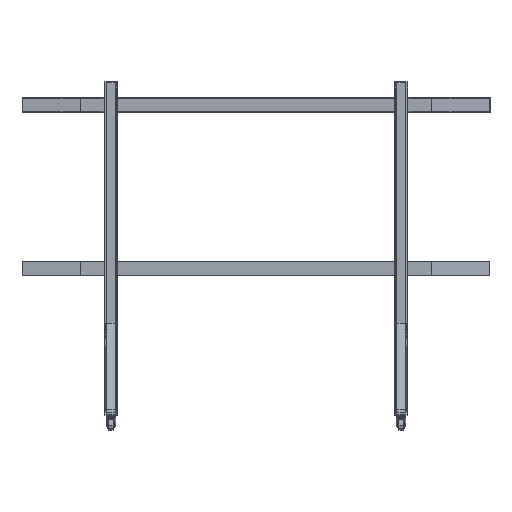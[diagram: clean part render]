
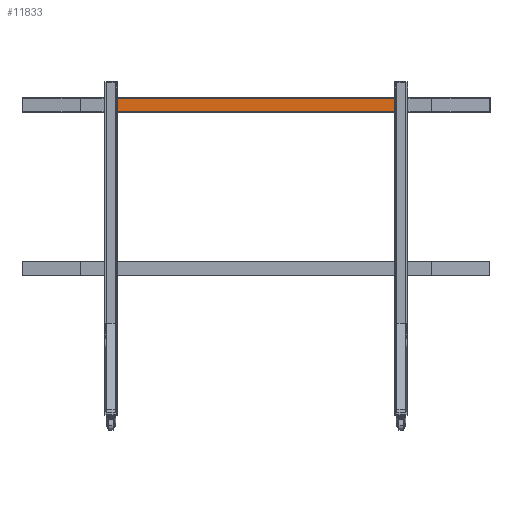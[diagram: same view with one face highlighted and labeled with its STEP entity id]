
A CAD part, top view. The second image highlights one B-rep face of the part: STEP entity #11833.
In plain terms, the highlighted planar face has unit normal (0, 0, 1) as drawn and (0, -1, 0) by its records, which use the part's own axes.
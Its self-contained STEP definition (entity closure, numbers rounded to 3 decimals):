
#886 = AXIS2_PLACEMENT_3D ( 'NONE', #10277, #29179, #7427 ) ;
#1733 = VERTEX_POINT ( 'NONE', #35643 ) ;
#2002 = EDGE_CURVE ( 'NONE', #1733, #33428, #19847, .T. ) ;
#4315 = CARTESIAN_POINT ( 'NONE',  ( -860., -22., -43. ) ) ;
#5908 = CARTESIAN_POINT ( 'NONE',  ( 860., -22., -14.333 ) ) ;
#6430 = CARTESIAN_POINT ( 'NONE',  ( -860., -22., 43. ) ) ;
#7427 = DIRECTION ( 'NONE',  ( 0., 0., -1. ) ) ;
#8514 = CARTESIAN_POINT ( 'NONE',  ( -860., -22., -43. ) ) ;
#8963 = EDGE_LOOP ( 'NONE', ( #16901, #37850, #31430, #17724 ) ) ;
#10277 = CARTESIAN_POINT ( 'NONE',  ( -860., -22., 45. ) ) ;
#10335 = CARTESIAN_POINT ( 'NONE',  ( 860., -22., -43. ) ) ;
#11005 = EDGE_CURVE ( 'NONE', #38182, #1733, #29841, .T. ) ;
#11833 = ADVANCED_FACE ( 'NONE', ( #26734 ), #13369, .T. ) ;
#13026 = CARTESIAN_POINT ( 'NONE',  ( -286.667, -22., -43. ) ) ;
#13369 = PLANE ( 'NONE',  #886 ) ;
#15896 = CARTESIAN_POINT ( 'NONE',  ( 286.667, -22., -43. ) ) ;
#16719 = CARTESIAN_POINT ( 'NONE',  ( -860., -22., -43. ) ) ;
#16901 = ORIENTED_EDGE ( 'NONE', *, *, #25188, .T. ) ;
#17724 = ORIENTED_EDGE ( 'NONE', *, *, #34399, .T. ) ;
#18926 = B_SPLINE_CURVE_WITH_KNOTS ( 'NONE', 3,
 ( #34793, #34582, #37454, #6430 ),
 .UNSPECIFIED., .F., .F.,
 ( 4, 4 ),
 ( 0., 1. ),
 .UNSPECIFIED. ) ;
#19847 = B_SPLINE_CURVE_WITH_KNOTS ( 'NONE', 3,
 ( #10335, #15896, #13026, #16719 ),
 .UNSPECIFIED., .F., .F.,
 ( 4, 4 ),
 ( 0., 1. ),
 .UNSPECIFIED. ) ;
#20335 = CARTESIAN_POINT ( 'NONE',  ( -860., -22., 43. ) ) ;
#24617 = CARTESIAN_POINT ( 'NONE',  ( 860., -22., 14.333 ) ) ;
#25188 = EDGE_CURVE ( 'NONE', #31865, #33428, #40227, .T. ) ;
#26310 = CARTESIAN_POINT ( 'NONE',  ( -860., -22., 14.333 ) ) ;
#26718 = CARTESIAN_POINT ( 'NONE',  ( -860., -22., -14.333 ) ) ;
#26734 = FACE_OUTER_BOUND ( 'NONE', #8963, .T. ) ;
#29097 = CARTESIAN_POINT ( 'NONE',  ( -860., -22., 43. ) ) ;
#29179 = DIRECTION ( 'NONE',  ( 0., -1., 0. ) ) ;
#29841 = B_SPLINE_CURVE_WITH_KNOTS ( 'NONE', 3,
 ( #31163, #24617, #5908, #30566 ),
 .UNSPECIFIED., .F., .F.,
 ( 4, 4 ),
 ( 0., 1. ),
 .UNSPECIFIED. ) ;
#30566 = CARTESIAN_POINT ( 'NONE',  ( 860., -22., -43. ) ) ;
#31163 = CARTESIAN_POINT ( 'NONE',  ( 860., -22., 43. ) ) ;
#31430 = ORIENTED_EDGE ( 'NONE', *, *, #11005, .F. ) ;
#31865 = VERTEX_POINT ( 'NONE', #29097 ) ;
#33428 = VERTEX_POINT ( 'NONE', #8514 ) ;
#33822 = CARTESIAN_POINT ( 'NONE',  ( 860., -22., 43. ) ) ;
#34399 = EDGE_CURVE ( 'NONE', #38182, #31865, #18926, .T. ) ;
#34582 = CARTESIAN_POINT ( 'NONE',  ( 286.667, -22., 43. ) ) ;
#34793 = CARTESIAN_POINT ( 'NONE',  ( 860., -22., 43. ) ) ;
#35643 = CARTESIAN_POINT ( 'NONE',  ( 860., -22., -43. ) ) ;
#37454 = CARTESIAN_POINT ( 'NONE',  ( -286.667, -22., 43. ) ) ;
#37850 = ORIENTED_EDGE ( 'NONE', *, *, #2002, .F. ) ;
#38182 = VERTEX_POINT ( 'NONE', #33822 ) ;
#40227 = B_SPLINE_CURVE_WITH_KNOTS ( 'NONE', 3,
 ( #20335, #26310, #26718, #4315 ),
 .UNSPECIFIED., .F., .F.,
 ( 4, 4 ),
 ( 0., 1. ),
 .UNSPECIFIED. ) ;
